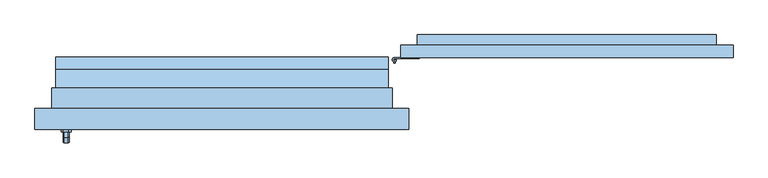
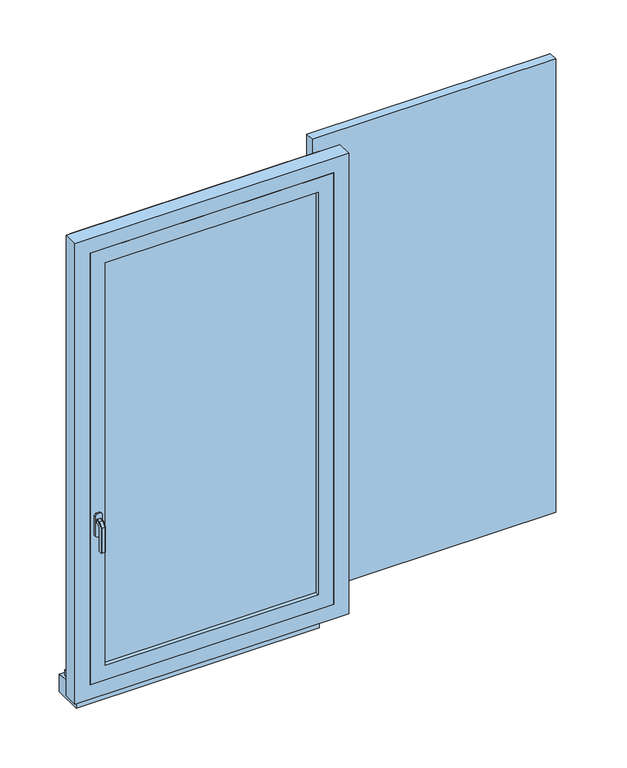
"""IFC4 building model written with IfcOpenShell, lengths in millimetres: window geometry, 1 Vantail droit - Volet et petits bois : 0.80m x 1.55m - Appui Béton."""

from ifc_helpers import new_model, si_unit, point, frame, frame_2d, origin, place, context, project, spatial, polyline, circle_curve, trimmed, segment, composite_curve, outline, extrude, faceted_brep, source, transform, mapped, element, save
from ifc_brep_helpers import plane_surface, cylinder_surface, advanced_brep


def window_ad9d5288(model_context):
    return source(origin(), model_context, "Body", "SolidModel", [
        extrude(outline(polyline([(1230.0, 93.0), (430.0, 93.0), (430.0, 123.0), (1230.0, 123.0), (1230.0, 93.0)])), frame((0.0, 0.0, 775.0), z_axis=(0.0, 0.0, 1.0), x_axis=(1.0, 0.0, 0.0)), (0.0, 0.0, 1.0), 1575.0),
        advanced_brep(
        [(410.0, 88.0, 975.0), (420.0, 88.0, 975.0), (410.0, 88.0, 950.0), (420.0, 88.0, 950.0), (417.0, 83.4174243, 955.0), (413.0, 83.4174243, 955.0), (413.0, 83.4174243, 965.0), (417.0, 83.4174243, 965.0), (413.0, 80.0, 965.0), (417.0, 80.0, 965.0), (417.0, 80.0, 955.0), (413.0, 80.0, 955.0)],
        [
            (0, 1, circle_curve(frame((415.0, 88.0, 975.0), z_axis=(0.0, 0.0, 1.0), x_axis=(1.0, 0.0, 0.0)), 5.0)),
            (1, 0, circle_curve(frame((415.0, 88.0, 975.0), z_axis=(0.0, 0.0, 1.0), x_axis=(1.0, 0.0, 0.0)), 5.0)),
            (2, 3, circle_curve(frame((415.0, 88.0, 950.0), z_axis=(0.0, 0.0, -1.0), x_axis=(1.0, 0.0, 0.0)), 5.0)),
            (3, 2, circle_curve(frame((415.0, 88.0, 950.0), z_axis=(0.0, 0.0, -1.0), x_axis=(1.0, 0.0, 0.0)), 5.0)),
            (0, 2),
            (3, 1),
            (4, 5, circle_curve(frame((415.0, 88.0, 955.0), z_axis=(0.0, 0.0, -1.0), x_axis=(1.0, 0.0, 0.0)), 5.0)),
            (5, 6),
            (6, 7, circle_curve(frame((415.0, 88.0, 965.0), z_axis=(0.0, 0.0, 1.0), x_axis=(1.0, 0.0, 0.0)), 5.0)),
            (7, 4),
            (8, 9),
            (9, 7),
            (6, 8),
            (10, 11),
            (11, 5),
            (4, 10),
            (9, 10),
            (11, 8),
        ],
        [
            plane_surface(frame((420.0, 88.0, 975.0), z_axis=(0.0, 0.0, 1.0), x_axis=(0.0, 1.0, 0.0))),
            plane_surface(frame((420.0, 88.0, 950.0), z_axis=(0.0, 0.0, -1.0), x_axis=(0.0, -1.0, 0.0))),
            cylinder_surface(frame((415.0, 88.0, 950.0), z_axis=(0.0, 0.0, 1.0), x_axis=(1.0, 0.0, 0.0)), 5.0),
            plane_surface(frame((417.0, 80.0, 965.0), z_axis=(0.0, 0.0, 1.0), x_axis=(0.0, 1.0, 0.0))),
            plane_surface(frame((417.0, 80.0, 955.0), z_axis=(0.0, 0.0, -1.0), x_axis=(0.0, -1.0, 0.0))),
            plane_surface(frame((417.0, 80.0, 965.0), z_axis=(1.0, 0.0, 0.0), x_axis=(0.0, 0.0, -1.0))),
            plane_surface(frame((413.0, 85.0, 965.0), z_axis=(-1.0, 0.0, 0.0), x_axis=(0.0, 0.0, -1.0))),
            plane_surface(frame((413.0, 80.0, 965.0), z_axis=(0.0, -1.0, 0.0), x_axis=(0.0, 0.0, -1.0))),
        ],
        [
            (0, [[1, 2]]),
            (1, [[3, 4]]),
            (2, [[-1, 5, -4, 6], [7, 8, 9, 10]]),
            (2, [[-2, -6, -3, -5]]),
            (3, [[11, 12, -9, 13]]),
            (4, [[14, 15, -7, 16]]),
            (5, [[17, -16, -10, -12]]),
            (6, [[18, -13, -8, -15]]),
            (7, [[-11, -18, -14, -17]]),
        ],
    ),
        extrude(outline(composite_curve([segment(polyline([(415.0, 93.0), (474.3092325, 93.0), (474.3092325, 90.5), (415.0, 90.5)]), True, "CONTINUOUS"), segment(trimmed(circle_curve(frame_2d((415.0, 88.0)), 2.5), [point((415.0, 90.5))], [point((417.5, 88.0))], True, "CARTESIAN"), True, "CONTINUOUS"), segment(polyline([(417.5, 88.0), (420.0, 88.0)]), True, "CONTINUOUS"), segment(trimmed(circle_curve(frame_2d((415.0, 88.0)), 5.0), [point((420.0, 88.0))], [point((415.0, 93.0))], False, "CARTESIAN"), True, "CONTINUOUS")], self_intersect=False)), frame((0.0, 0.0, 975.0), z_axis=(0.0, 0.0, 1.0), x_axis=(1.0, 0.0, 0.0)), (0.0, 0.0, 1.0), 25.0),
        extrude(outline(composite_curve([segment(trimmed(circle_curve(frame_2d((415.0, 88.0)), 2.5), [point((412.5, 88.0))], [point((417.5, 88.0))], False, "CARTESIAN"), True, "CONTINUOUS"), segment(trimmed(circle_curve(frame_2d((415.0, 88.0)), 2.5), [point((417.5, 88.0))], [point((412.5, 88.0))], False, "CARTESIAN"), True, "CONTINUOUS")], self_intersect=False)), frame((0.0, 0.0, 975.0), z_axis=(0.0, 0.0, 1.0), x_axis=(1.0, 0.0, 0.0)), (0.0, 0.0, 1.0), 25.0),
        advanced_brep(
        [(410.0, 88.0, 2150.0), (420.0, 88.0, 2150.0), (410.0, 88.0, 2125.0), (420.0, 88.0, 2125.0), (413.0, 83.4174243, 2140.0), (417.0, 83.4174243, 2140.0), (417.0, 83.4174243, 2130.0), (413.0, 83.4174243, 2130.0), (413.0, 80.0, 2140.0), (417.0, 80.0, 2140.0), (413.0, 80.0, 2130.0), (417.0, 80.0, 2130.0)],
        [
            (0, 1, circle_curve(frame((415.0, 88.0, 2150.0), z_axis=(0.0, 0.0, 1.0), x_axis=(1.0, 0.0, 0.0)), 5.0)),
            (1, 0, circle_curve(frame((415.0, 88.0, 2150.0), z_axis=(0.0, 0.0, 1.0), x_axis=(1.0, 0.0, 0.0)), 5.0)),
            (2, 3, circle_curve(frame((415.0, 88.0, 2125.0), z_axis=(0.0, 0.0, -1.0), x_axis=(1.0, 0.0, 0.0)), 5.0)),
            (3, 2, circle_curve(frame((415.0, 88.0, 2125.0), z_axis=(0.0, 0.0, -1.0), x_axis=(1.0, 0.0, 0.0)), 5.0)),
            (0, 2),
            (3, 1),
            (4, 5, circle_curve(frame((415.0, 88.0, 2140.0), z_axis=(0.0, 0.0, 1.0), x_axis=(1.0, 0.0, 0.0)), 5.0)),
            (5, 6),
            (6, 7, circle_curve(frame((415.0, 88.0, 2130.0), z_axis=(0.0, 0.0, -1.0), x_axis=(1.0, 0.0, 0.0)), 5.0)),
            (7, 4),
            (8, 9),
            (9, 5),
            (4, 8),
            (10, 7),
            (6, 11),
            (11, 10),
            (8, 10),
            (11, 9),
        ],
        [
            plane_surface(frame((420.0, 88.0, 2150.0), z_axis=(0.0, 0.0, 1.0), x_axis=(0.0, 1.0, 0.0))),
            plane_surface(frame((420.0, 88.0, 2125.0), z_axis=(0.0, 0.0, -1.0), x_axis=(0.0, -1.0, 0.0))),
            cylinder_surface(frame((415.0, 88.0, 2125.0), z_axis=(0.0, 0.0, 1.0), x_axis=(1.0, 0.0, 0.0)), 5.0),
            plane_surface(frame((413.0, 80.0, 2140.0), z_axis=(0.0, 0.0, 1.0), x_axis=(1.0, 0.0, 0.0))),
            plane_surface(frame((413.0, 80.0, 2130.0), z_axis=(0.0, 0.0, -1.0), x_axis=(-1.0, 0.0, 0.0))),
            plane_surface(frame((413.0, 80.0, 2140.0), z_axis=(0.0, -1.0, 0.0), x_axis=(0.0, 0.0, -1.0))),
            plane_surface(frame((417.0, 80.0, 2140.0), z_axis=(1.0, 0.0, 0.0), x_axis=(0.0, 0.0, -1.0))),
            plane_surface(frame((413.0, 83.4174243, 2140.0), z_axis=(-1.0, 0.0, 0.0), x_axis=(0.0, 0.0, -1.0))),
        ],
        [
            (0, [[1, 2]]),
            (1, [[3, 4]]),
            (2, [[-1, 5, -4, 6], [7, 8, 9, 10]]),
            (2, [[-2, -6, -3, -5]]),
            (3, [[11, 12, -7, 13]]),
            (4, [[14, -9, 15, 16]]),
            (5, [[-11, 17, -16, 18]]),
            (6, [[-12, -18, -15, -8]]),
            (7, [[-13, -10, -14, -17]]),
        ],
    ),
        extrude(outline(polyline([(413.0, 80.0), (413.0, 83.4174243), (417.0, 83.4174243), (417.0, 80.0), (413.0, 80.0)])), frame((0.0, 0.0, 1542.5), z_axis=(0.0, 0.0, 1.0), x_axis=(1.0, 0.0, 0.0)), (0.0, 0.0, 1.0), 10.0),
        extrude(outline(composite_curve([segment(polyline([(415.0, 93.0), (474.3092325, 93.0), (474.3092325, 90.5), (415.0, 90.5)]), True, "CONTINUOUS"), segment(trimmed(circle_curve(frame_2d((415.0, 88.0)), 2.5), [point((415.0, 90.5))], [point((412.5, 88.0))], True, "CARTESIAN"), True, "CONTINUOUS"), segment(trimmed(circle_curve(frame_2d((415.0, 88.0)), 2.5), [point((412.5, 88.0))], [point((417.5, 88.0))], True, "CARTESIAN"), True, "CONTINUOUS"), segment(polyline([(417.5, 88.0), (420.0, 88.0)]), True, "CONTINUOUS"), segment(trimmed(circle_curve(frame_2d((415.0, 88.0)), 5.0), [point((420.0, 88.0))], [point((415.0, 93.0))], False, "CARTESIAN"), True, "CONTINUOUS")], self_intersect=False)), frame((0.0, 0.0, 1562.5), z_axis=(0.0, 0.0, 1.0), x_axis=(1.0, 0.0, 0.0)), (0.0, 0.0, 1.0), 25.0),
        extrude(outline(composite_curve([segment(trimmed(circle_curve(frame_2d((415.0, 88.0)), 2.5), [point((412.5, 88.0))], [point((417.5, 88.0))], False, "CARTESIAN"), True, "CONTINUOUS"), segment(trimmed(circle_curve(frame_2d((415.0, 88.0)), 2.5), [point((417.5, 88.0))], [point((412.5, 88.0))], False, "CARTESIAN"), True, "CONTINUOUS")], self_intersect=False)), frame((0.0, 0.0, 1562.5), z_axis=(0.0, 0.0, 1.0), x_axis=(1.0, 0.0, 0.0)), (0.0, 0.0, 1.0), 25.0),
        extrude(outline(composite_curve([segment(trimmed(circle_curve(frame_2d((415.0, 88.0)), 5.0), [point((410.0, 88.0))], [point((420.0, 88.0))], False, "CARTESIAN"), True, "CONTINUOUS"), segment(trimmed(circle_curve(frame_2d((415.0, 88.0)), 5.0), [point((420.0, 88.0))], [point((410.0, 88.0))], False, "CARTESIAN"), True, "CONTINUOUS")], self_intersect=False)), frame((0.0, 0.0, 1537.5), z_axis=(0.0, 0.0, 1.0), x_axis=(1.0, 0.0, 0.0)), (0.0, 0.0, 1.0), 25.0),
        extrude(outline(composite_curve([segment(polyline([(415.0, 93.0), (474.3092325, 93.0), (474.3092325, 90.5), (415.0, 90.5)]), True, "CONTINUOUS"), segment(trimmed(circle_curve(frame_2d((415.0, 88.0)), 2.5), [point((415.0, 90.5))], [point((417.5, 88.0))], True, "CARTESIAN"), True, "CONTINUOUS"), segment(polyline([(417.5, 88.0), (420.0, 88.0)]), True, "CONTINUOUS"), segment(trimmed(circle_curve(frame_2d((415.0, 88.0)), 5.0), [point((420.0, 88.0))], [point((415.0, 93.0))], False, "CARTESIAN"), True, "CONTINUOUS")], self_intersect=False)), frame((0.0, 0.0, 2150.0), z_axis=(0.0, 0.0, 1.0), x_axis=(1.0, 0.0, 0.0)), (0.0, 0.0, 1.0), 25.0),
        extrude(outline(composite_curve([segment(trimmed(circle_curve(frame_2d((415.0, 88.0)), 2.5), [point((412.5, 88.0))], [point((417.5, 88.0))], False, "CARTESIAN"), True, "CONTINUOUS"), segment(trimmed(circle_curve(frame_2d((415.0, 88.0)), 2.5), [point((417.5, 88.0))], [point((412.5, 88.0))], False, "CARTESIAN"), True, "CONTINUOUS")], self_intersect=False)), frame((0.0, 0.0, 2150.0), z_axis=(0.0, 0.0, 1.0), x_axis=(1.0, 0.0, 0.0)), (0.0, 0.0, 1.0), 25.0),
        extrude(outline(polyline([(2110.0, 1190.0), (2110.0, 1097.7847934), (1015.0, 470.0007252), (1015.0, 562.2159319), (2110.0, 1190.0)])), frame((0.0, 123.0, 0.0), z_axis=(0.0, 1.0, 0.0), x_axis=(0.0, 0.0, 1.0)), (0.0, 0.0, 1.0), 25.0),
        extrude(outline(polyline([(470.0, 148.0), (1190.0, 148.0), (1190.0, 123.0), (470.0, 123.0), (470.0, 148.0)])), frame((0.0, 0.0, 2110.0), z_axis=(0.0, 0.0, 1.0), x_axis=(1.0, 0.0, 0.0)), (0.0, 0.0, 1.0), 80.0),
        extrude(outline(polyline([(470.0, 148.0), (1190.0, 148.0), (1190.0, 123.0), (470.0, 123.0), (470.0, 148.0)])), frame((0.0, 0.0, 935.0), z_axis=(0.0, 0.0, 1.0), x_axis=(1.0, 0.0, 0.0)), (0.0, 0.0, 1.0), 80.0),
        faceted_brep([(-369.3539903, -86.0, 1422.0339292), (-367.9660708, -86.0, 1420.6460097), (-367.9660708, -86.0, 1409.3323012), (-369.3323012, -86.0, 1407.9660708), (-380.6676988, -86.0, 1407.9660708), (-382.0339292, -86.0, 1409.3323012), (-382.0339292, -86.0, 1420.6460097), (-380.6460097, -86.0, 1422.0339292), (-369.3539903, -98.9135489, 1422.0339292), (-367.9660708, -98.3386538, 1420.6460097), (-367.9660708, -111.6460097, 1407.3386538), (-367.9660708, -111.6460097, 1320.0), (-367.9660708, -100.3323012, 1320.0), (-367.9660708, -100.3323012, 1402.6523623), (-367.9660708, -93.6523623, 1409.3323012), (-369.3323012, -93.0864511, 1407.9660708), (-380.6676988, -93.0864511, 1407.9660708), (-382.0339292, -93.6523623, 1409.3323012), (-382.0339292, -100.3323012, 1402.6523623), (-382.0339292, -100.3323012, 1320.0), (-382.0339292, -111.6460097, 1320.0), (-382.0339292, -111.6460097, 1407.3386538), (-382.0339292, -98.3386538, 1420.6460097), (-380.6460097, -98.9135489, 1422.0339292), (-369.3539903, -113.0339292, 1407.9135489), (-369.3323012, -98.9660708, 1402.0864511), (-380.6676988, -98.9660708, 1402.0864511), (-380.6460097, -113.0339292, 1407.9135489), (-369.3539903, -113.0339292, 1320.0), (-380.6460097, -113.0339292, 1320.0), (-380.6676988, -98.9660708, 1320.0), (-369.3323012, -98.9660708, 1320.0)], [[[0, 1, 2, 3, 4, 5, 6, 7]], [[1, 0, 8, 9]], [[2, 1, 9, 10, 11, 12, 13, 14]], [[3, 2, 14, 15]], [[4, 3, 15, 16]], [[5, 4, 16, 17]], [[6, 5, 17, 18, 19, 20, 21, 22]], [[7, 6, 22, 23]], [[0, 7, 23, 8]], [[9, 8, 24, 10]], [[15, 14, 13, 25]], [[16, 15, 25, 26]], [[17, 16, 26, 18]], [[23, 22, 21, 27]], [[8, 23, 27, 24]], [[28, 29, 20, 19, 30, 31, 12, 11]], [[10, 24, 28, 11]], [[25, 13, 12, 31]], [[26, 25, 31, 30]], [[18, 26, 30, 19]], [[27, 21, 20, 29]], [[24, 27, 29, 28]]]),
        extrude(outline(polyline([(1440.0, -368.0), (1440.0, -382.0), (1435.0, -387.0), (1365.0, -387.0), (1360.0, -382.0), (1360.0, -368.0), (1365.0, -363.0), (1435.0, -363.0), (1440.0, -368.0)])), frame((0.0, -86.0, 0.0), z_axis=(0.0, 1.0, 0.0), x_axis=(0.0, 0.0, 1.0)), (0.0, 0.0, 1.0), 6.0),
        extrude(outline(polyline([(0.0, 800.0), (50.0, 800.0), (50.0, 785.0), (95.0, 780.2703094), (95.0, 720.0), (0.0, 720.0), (0.0, 800.0)])), frame((-400.0, 0.0, 0.0), z_axis=(1.0, 0.0, 0.0), x_axis=(0.0, 1.0, 0.0)), (0.0, 0.0, 1.0), 800.0),
        extrude(outline(polyline([(850.0, 400.0), (2350.0, 400.0), (2350.0, -400.0), (850.0, -400.0), (850.0, 400.0)]), holes=[polyline([(900.0, -350.0), (2300.0, -350.0), (2300.0, 350.0), (900.0, 350.0), (900.0, -350.0)])]), frame((0.0, -80.0, 0.0), z_axis=(0.0, 1.0, 0.0), x_axis=(0.0, 0.0, 1.0)), (0.0, 0.0, 1.0), 40.0),
        faceted_brep([(-450.0, -80.0, 800.0), (-450.0, -30.0, 800.0), (-400.0, -30.0, 800.0), (-400.0, 55.0, 800.0), (400.0, 55.0, 800.0), (400.0, -30.0, 800.0), (450.0, -30.0, 800.0), (450.0, -80.0, 800.0), (-450.0, -80.0, 2400.0), (-450.0, -30.0, 2400.0), (450.0, -30.0, 2400.0), (400.0, -30.0, 839.3761425), (-400.0, -30.0, 839.3761425), (-385.0, -30.0, 2335.0), (-385.0, -30.0, 865.0), (385.0, -30.0, 865.0), (385.0, -30.0, 2335.0), (-400.0, 65.0, 813.9209692), (-400.0, 65.0, 795.0), (-400.0, 55.0, 795.0), (400.0, 55.0, 795.0), (400.0, 65.0, 795.0), (400.0, 65.0, 813.9209692), (450.0, -80.0, 2400.0), (400.0, -80.0, 2350.0), (400.0, -80.0, 850.0), (-400.0, -80.0, 850.0), (-400.0, -80.0, 2350.0), (-385.0, -40.0, 2335.0), (-385.0, -40.0, 865.0), (385.0, -40.0, 865.0), (385.0, -40.0, 2335.0), (400.0, -40.0, 2350.0), (-400.0, -40.0, 2350.0), (-400.0, -40.0, 850.0), (400.0, -40.0, 850.0)], [[[0, 1, 2, 3, 4, 5, 6, 7]], [[1, 0, 8, 9]], [[1, 9, 10, 6, 5, 11, 12, 2], [13, 14, 15, 16]], [[12, 17, 18, 19, 3, 2]], [[3, 19, 20, 4]], [[4, 20, 21, 22, 11, 5]], [[6, 10, 23, 7]], [[0, 7, 23, 8], [24, 25, 26, 27]], [[13, 28, 29, 14]], [[29, 30, 15, 14]], [[31, 16, 15, 30]], [[17, 12, 11, 22]], [[32, 33, 34, 35], [28, 31, 30, 29]], [[34, 33, 27, 26]], [[26, 25, 35, 34]], [[24, 32, 35, 25]], [[18, 17, 22, 21]], [[19, 18, 21, 20]], [[13, 16, 31, 28]], [[33, 32, 24, 27]], [[10, 9, 8, 23]]]),
        extrude(outline(polyline([(800.0, -410.0), (800.0, -400.0), (2350.0, -400.0), (2350.0, 400.0), (800.0, 400.0), (800.0, 410.0), (2360.0, 410.0), (2360.0, -410.0), (800.0, -410.0)])), frame((0.0, -30.0, 0.0), z_axis=(0.0, 1.0, 0.0), x_axis=(0.0, 0.0, 1.0)), (0.0, 0.0, 1.0), 50.0),
        extrude(outline(polyline([(-350.0, -54.0), (350.0, -54.0), (350.0, -66.0), (-350.0, -66.0), (-350.0, -54.0)])), frame((0.0, 0.0, 900.0), z_axis=(0.0, 0.0, 1.0), x_axis=(1.0, 0.0, 0.0)), (0.0, 0.0, 1.0), 1400.0),
    ])


if __name__ == "__main__":
    model = new_model("IFC4")
    model_context = context("Model", 3, world=origin())
    ifc_project = project(units=[si_unit("LENGTHUNIT", "METRE", prefix="MILLI")], contexts=[model_context])
    site = spatial("IfcSite", under=ifc_project)
    building = spatial("IfcBuilding", under=site)
    placement = place(None, origin())
    window_shape = window_ad9d5288(model_context)
    element("IfcWindow", 1, ObjectType="1 Vantail droit - Volet et petits bois : 0.80m x 1.55m - Appui Béton", at=placement, inside=building, context=model_context, shape_type="MappedRepresentation", body=[
        mapped(window_shape, transform((0.0, 0.0, 0.0), x_axis=(1.0, 0.0, 0.0), y_axis=(0.0, 1.0, 0.0), z_axis=(0.0, 0.0, 1.0))),
    ])
    save(model, "model.ifc")
